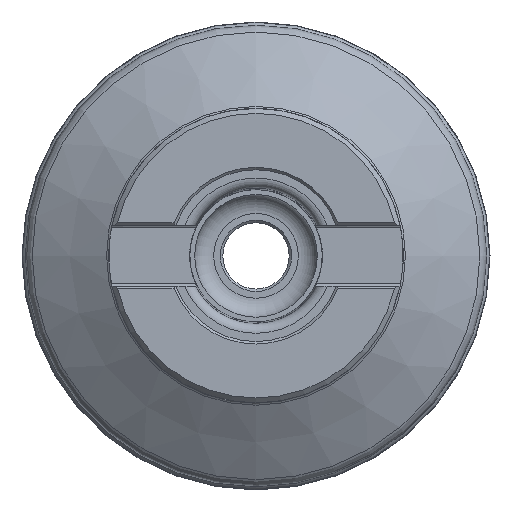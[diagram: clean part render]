
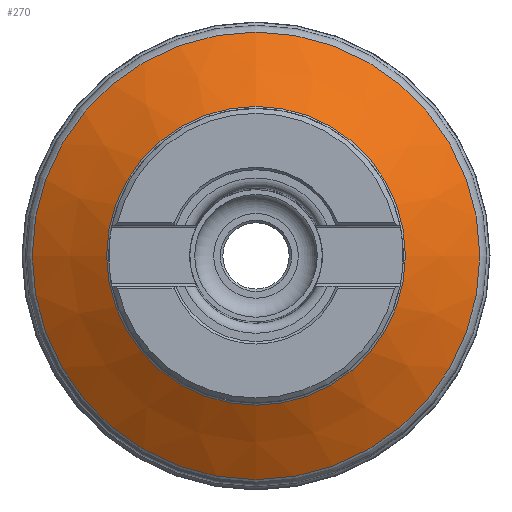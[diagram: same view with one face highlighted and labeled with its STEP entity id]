
A CAD part, top view. The second image highlights one B-rep face of the part: STEP entity #270.
In plain terms, the highlighted conical face has half-angle 57.848 degrees and reference radius 47 mm.
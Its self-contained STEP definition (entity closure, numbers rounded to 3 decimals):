
#204=CONICAL_SURFACE('',#1163,47.,57.848);
#270=ADVANCED_FACE('',(#446,#447),#204,.T.);
#446=FACE_BOUND('',#542,.T.);
#447=FACE_BOUND('',#543,.T.);
#542=EDGE_LOOP('',(#685));
#543=EDGE_LOOP('',(#686));
#685=ORIENTED_EDGE('',*,*,#992,.T.);
#686=ORIENTED_EDGE('',*,*,#993,.T.);
#899=VERTEX_POINT('',#1719);
#900=VERTEX_POINT('',#1721);
#992=EDGE_CURVE('',#899,#899,#1085,.T.);
#993=EDGE_CURVE('',#900,#900,#1086,.T.);
#1085=CIRCLE('',#1161,30.436);
#1086=CIRCLE('',#1162,45.597);
#1161=AXIS2_PLACEMENT_3D('',#1718,#1333,#1334);
#1162=AXIS2_PLACEMENT_3D('',#1720,#1335,#1336);
#1163=AXIS2_PLACEMENT_3D('',#1722,#1337,#1338);
#1333=DIRECTION('',(0.,0.,-1.));
#1334=DIRECTION('',(-1.,0.,0.));
#1335=DIRECTION('',(0.,0.,1.));
#1336=DIRECTION('',(1.,0.,0.));
#1337=DIRECTION('',(0.,0.,-1.));
#1338=DIRECTION('',(1.,0.,0.));
#1718=CARTESIAN_POINT('',(0.,0.,-16.588));
#1719=CARTESIAN_POINT('',(-30.436,0.,-16.588));
#1720=CARTESIAN_POINT('',(0.,0.,-26.118));
#1721=CARTESIAN_POINT('',(45.597,0.,-26.118));
#1722=CARTESIAN_POINT('',(0.,0.,-27.));
